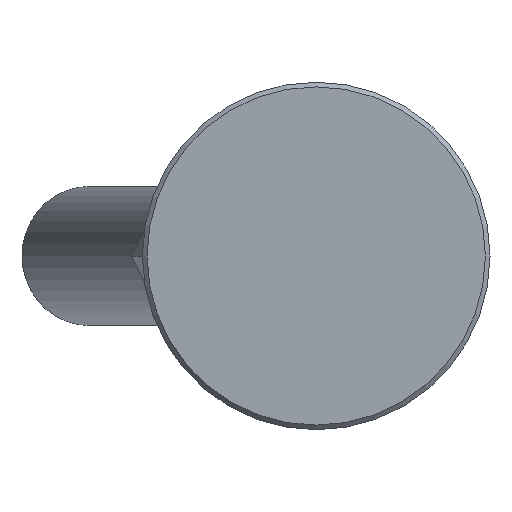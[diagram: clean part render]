
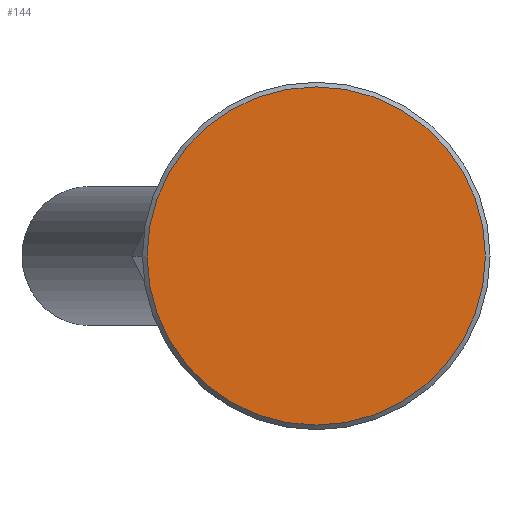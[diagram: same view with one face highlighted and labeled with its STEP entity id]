
A CAD part, front view. The second image highlights one B-rep face of the part: STEP entity #144.
In plain terms, the highlighted planar face has unit normal (0, -1, 0).
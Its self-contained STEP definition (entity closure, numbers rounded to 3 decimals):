
#144 = ADVANCED_FACE( '', ( #299 ), #300, .F. );
#299 = FACE_OUTER_BOUND( '', #495, .T. );
#300 = PLANE( '', #496 );
#495 = EDGE_LOOP( '', ( #688 ) );
#496 = AXIS2_PLACEMENT_3D( '', #689, #690, #691 );
#688 = ORIENTED_EDGE( '', *, *, #1103, .T. );
#689 = CARTESIAN_POINT( '', ( 29.2, 0., 0. ) );
#690 = DIRECTION( '', ( 0., 1., 0. ) );
#691 = DIRECTION( '', ( 0., 0., 1. ) );
#1103 = EDGE_CURVE( '', #1268, #1268, #1269, .T. );
#1268 = VERTEX_POINT( '', #1485 );
#1269 = CIRCLE( '', #1486, 29.2 );
#1485 = CARTESIAN_POINT( '', ( 0., 0., -29.2 ) );
#1486 = AXIS2_PLACEMENT_3D( '', #2032, #2033, #2034 );
#2032 = CARTESIAN_POINT( '', ( 0., 0., 0. ) );
#2033 = DIRECTION( '', ( 0., -1., 0. ) );
#2034 = DIRECTION( '', ( 0., 0., -1. ) );
